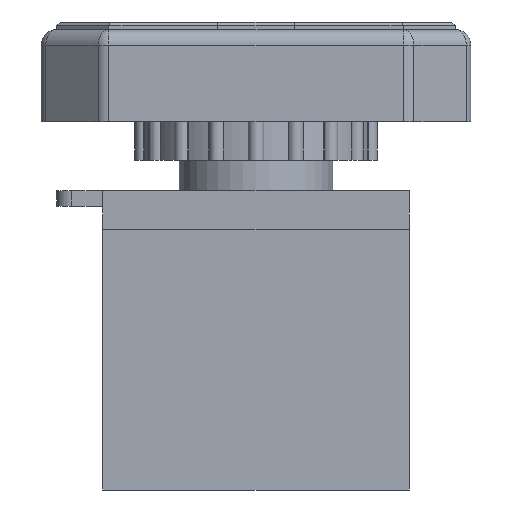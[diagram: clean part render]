
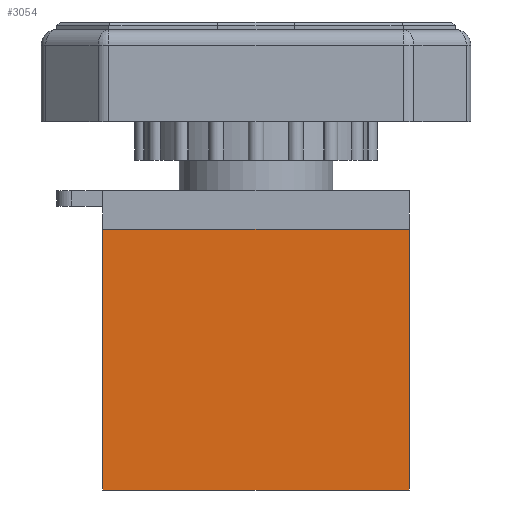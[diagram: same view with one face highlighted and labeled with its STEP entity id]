
A CAD part, front view. The second image highlights one B-rep face of the part: STEP entity #3054.
In plain terms, the highlighted planar face has unit normal (0, -1, 0).
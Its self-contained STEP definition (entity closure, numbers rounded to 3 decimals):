
#210=FACE_OUTER_BOUND('',#397,.T.);
#397=EDGE_LOOP('',(#2033,#2034,#2035,#2036));
#586=LINE('',#4496,#932);
#588=LINE('',#4500,#934);
#591=LINE('',#4505,#937);
#592=LINE('',#4507,#938);
#932=VECTOR('',#3555,10.);
#934=VECTOR('',#3559,10.);
#937=VECTOR('',#3564,10.);
#938=VECTOR('',#3567,10.);
#1277=VERTEX_POINT('',#4493);
#1278=VERTEX_POINT('',#4495);
#1279=VERTEX_POINT('',#4499);
#1280=VERTEX_POINT('',#4503);
#1568=EDGE_CURVE('',#1278,#1277,#586,.T.);
#1570=EDGE_CURVE('',#1278,#1279,#588,.T.);
#1573=EDGE_CURVE('',#1277,#1280,#591,.T.);
#1574=EDGE_CURVE('',#1279,#1280,#592,.T.);
#2033=ORIENTED_EDGE('',*,*,#1568,.T.);
#2034=ORIENTED_EDGE('',*,*,#1573,.T.);
#2035=ORIENTED_EDGE('',*,*,#1574,.F.);
#2036=ORIENTED_EDGE('',*,*,#1570,.F.);
#2929=PLANE('',#3253);
#3054=ADVANCED_FACE('',(#210),#2929,.T.);
#3253=AXIS2_PLACEMENT_3D('',#4506,#3565,#3566);
#3555=DIRECTION('',(1.,0.,0.));
#3559=DIRECTION('',(0.,0.,1.));
#3564=DIRECTION('',(0.,0.,1.));
#3565=DIRECTION('center_axis',(0.,-1.,0.));
#3566=DIRECTION('ref_axis',(1.,0.,0.));
#3567=DIRECTION('',(1.,0.,0.));
#4493=CARTESIAN_POINT('',(20.,-15.5,0.));
#4495=CARTESIAN_POINT('',(-20.,-15.5,0.));
#4496=CARTESIAN_POINT('',(-20.,-15.5,0.));
#4499=CARTESIAN_POINT('',(-20.,-15.5,34.));
#4500=CARTESIAN_POINT('',(-20.,-15.5,0.));
#4503=CARTESIAN_POINT('',(20.,-15.5,34.));
#4505=CARTESIAN_POINT('',(20.,-15.5,0.));
#4506=CARTESIAN_POINT('Origin',(-20.,-15.5,0.));
#4507=CARTESIAN_POINT('',(-20.,-15.5,34.));
